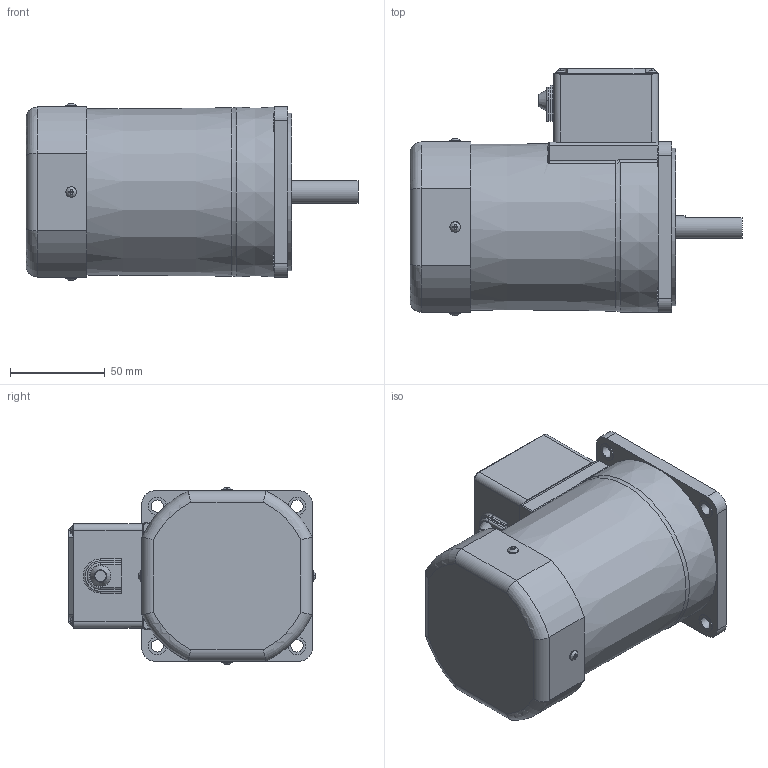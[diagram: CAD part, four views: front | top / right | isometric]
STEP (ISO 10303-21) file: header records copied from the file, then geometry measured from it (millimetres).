
FILE_DESCRIPTION((''),'2;1');
FILE_NAME('D:\STP파일\90W MOTOR\T1 BOX TYPE\S9I90D-T1.stp','2013-05-20T18:46:00',('leebh'),(''),'Autodesk Inventor 2011','Autodesk Inventor 2011','');
FILE_SCHEMA(('AUTOMOTIVE_DESIGN { 1 0 10303 214 1 1 1 1 }'));
Length unit declared in the file: millimetre
Products named in the file (1): S9I90G-T1
Bounding box: 174.8 x 130.44 x 93.49 mm (x, y, z)
Volume: 1013388.3 mm3; surface area: 71298.7 mm2
Topology: 1 solids, 6 shells, 323 faces, 807 edges, 514 vertices
Faces by surface type: plane 187, cylinder 74, bspline 28, torus 27, cone 7
Full cylindrical faces by diameter (mm): 3 x4, 3.5 x4, 5.6 x8, 6.5 x4, 8 x1, 9.5 x4, 12 x1, 40 x1, 83 x1
Entity records: 10453 total; most frequent: CARTESIAN_POINT 3074, ORIENTED_EDGE 1470, DIRECTION 1385, EDGE_CURVE 735, VERTEX_POINT 503, AXIS2_PLACEMENT_3D 498, EDGE_LOOP 418, VECTOR 389
